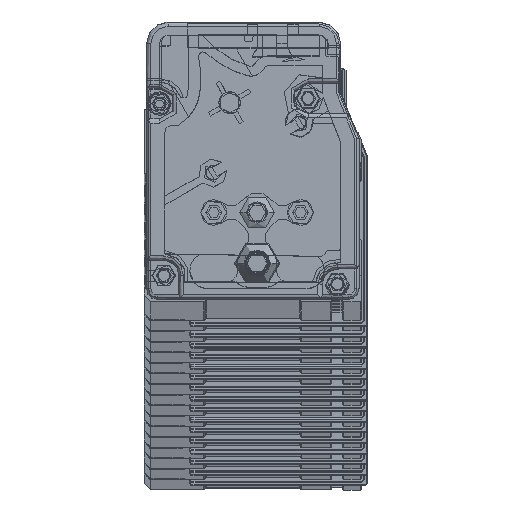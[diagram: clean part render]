
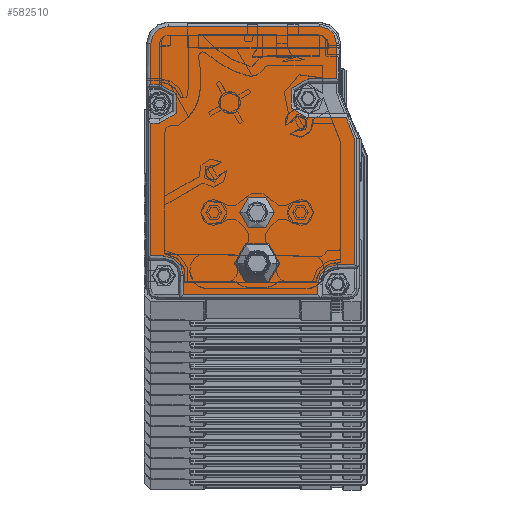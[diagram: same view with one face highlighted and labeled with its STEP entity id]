
A CAD part, top view. The second image highlights one B-rep face of the part: STEP entity #582510.
In plain terms, the highlighted planar face has unit normal (0, 0, 1).
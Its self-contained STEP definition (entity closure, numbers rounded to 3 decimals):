
#502120=CARTESIAN_POINT('',(-20.559,51.727,
2958.89));
#502130=DIRECTION('',(1.,0.,0.));
#502140=VECTOR('',#502130,1.);
#502150=LINE('',#502120,#502140);
#502160=CARTESIAN_POINT('',(-68.559,51.727,
2958.89));
#502170=VERTEX_POINT('',#502160);
#502180=CARTESIAN_POINT('',(-66.559,51.727,
2958.89));
#502190=VERTEX_POINT('',#502180);
#502200=EDGE_CURVE('',#502170,#502190,#502150,.T.);
#502700=CARTESIAN_POINT('',(-20.559,3.124,
2958.89));
#502710=DIRECTION('',(-1.,0.,0.));
#502720=VECTOR('',#502710,1.);
#502730=LINE('',#502700,#502720);
#502740=CARTESIAN_POINT('',(-30.059,3.124,
2958.89));
#502750=VERTEX_POINT('',#502740);
#502760=CARTESIAN_POINT('',(-61.059,3.124,
2958.89));
#502770=VERTEX_POINT('',#502760);
#502780=EDGE_CURVE('',#502750,#502770,#502730,.T.);
#504690=CARTESIAN_POINT('',(-65.559,7.624,
2958.89));
#504700=DIRECTION('',(0.,0.,-1.));
#504710=DIRECTION('',(-1.,0.,0.));
#504720=AXIS2_PLACEMENT_3D('',#504690,#504700,#504710);
#504730=CIRCLE('',#504720,4.5);
#504740=CARTESIAN_POINT('',(-65.559,12.124,
2958.89));
#504750=VERTEX_POINT('',#504740);
#504760=CARTESIAN_POINT('',(-61.059,7.624,
2958.89));
#504770=VERTEX_POINT('',#504760);
#504780=EDGE_CURVE('',#504750,#504770,#504730,.T.);
#544710=CARTESIAN_POINT('',(-32.309,48.424,
2958.89));
#544720=DIRECTION('',(0.,0.,-1.));
#544730=DIRECTION('',(-1.,0.,0.));
#544740=AXIS2_PLACEMENT_3D('',#544710,#544720,#544730);
#544750=CIRCLE('',#544740,4.5);
#544760=CARTESIAN_POINT('',(-32.309,43.924,
2958.89));
#544770=VERTEX_POINT('',#544760);
#544780=CARTESIAN_POINT('',(-32.309,52.924,
2958.89));
#544790=VERTEX_POINT('',#544780);
#544800=EDGE_CURVE('',#544770,#544790,#544750,.T.);
#580510=CARTESIAN_POINT('',(-7.243,2.124,
2958.89));
#580520=DIRECTION('',(0.362,-0.932,0.));
#580530=VECTOR('',#580520,1.);
#580540=LINE('',#580510,#580530);
#580550=CARTESIAN_POINT('',(-23.499,43.924,
2958.89));
#580560=VERTEX_POINT('',#580550);
#580570=CARTESIAN_POINT('',(-21.559,38.937,
2958.89));
#580580=VERTEX_POINT('',#580570);
#580590=EDGE_CURVE('',#580560,#580580,#580540,.T.);
#580870=CARTESIAN_POINT('',(-20.265,1.758,
2958.89));
#580880=DIRECTION('',(0.,0.,-1.));
#580890=DIRECTION('',(-1.,0.,0.));
#580900=AXIS2_PLACEMENT_3D('',#580870,#580880,#580890);
#580910=PLANE('',#580900);
#580920=CARTESIAN_POINT('',(-44.056,10.421,
2958.89));
#580930=DIRECTION('',(0.,0.,-1.));
#580940=DIRECTION('',(-1.,0.,0.));
#580950=AXIS2_PLACEMENT_3D('',#580920,#580930,#580940);
#580960=CIRCLE('',#580950,5.);
#580970=CARTESIAN_POINT('',(-39.056,10.421,
2958.89));
#580980=VERTEX_POINT('',#580970);
#580990=CARTESIAN_POINT('',(-49.056,10.421,
2958.89));
#581000=VERTEX_POINT('',#580990);
#581010=EDGE_CURVE('',#580980,#581000,#580960,.T.);
#581020=ORIENTED_EDGE('',*,*,#581010,.T.);
#581030=EDGE_CURVE('',#581000,#580980,#580960,.T.);
#581040=ORIENTED_EDGE('',*,*,#581030,.T.);
#581050=EDGE_LOOP('',(#581040,#581020));
#581060=FACE_BOUND('',#581050,.T.);
#581070=CARTESIAN_POINT('',(-44.059,22.124,
2958.89));
#581080=DIRECTION('',(0.,0.,1.));
#581090=DIRECTION('',(-1.,0.,0.));
#581100=AXIS2_PLACEMENT_3D('',#581070,#581080,#581090);
#581110=CIRCLE('',#581100,4.);
#581120=CARTESIAN_POINT('',(-40.059,22.124,
2958.89));
#581130=VERTEX_POINT('',#581120);
#581140=CARTESIAN_POINT('',(-48.059,22.124,
2958.89));
#581150=VERTEX_POINT('',#581140);
#581160=EDGE_CURVE('',#581130,#581150,#581110,.T.);
#581170=ORIENTED_EDGE('',*,*,#581160,.F.);
#581180=EDGE_CURVE('',#581150,#581130,#581110,.T.);
#581190=ORIENTED_EDGE('',*,*,#581180,.F.);
#581200=EDGE_LOOP('',(#581190,#581170));
#581210=FACE_BOUND('',#581200,.T.);
#581220=CARTESIAN_POINT('',(-61.059,2.124,
2958.89));
#581230=DIRECTION('',(0.,-1.,0.));
#581240=VECTOR('',#581230,1.);
#581250=LINE('',#581220,#581240);
#581260=EDGE_CURVE('',#504770,#502770,#581250,.T.);
#581270=ORIENTED_EDGE('',*,*,#581260,.T.);
#581280=ORIENTED_EDGE('',*,*,#504780,.T.);
#581290=CARTESIAN_POINT('',(-20.559,12.124,
2958.89));
#581300=DIRECTION('',(1.,0.,0.));
#581310=VECTOR('',#581300,1.);
#581320=LINE('',#581290,#581310);
#581330=CARTESIAN_POINT('',(-68.559,12.124,
2958.89));
#581340=VERTEX_POINT('',#581330);
#581350=EDGE_CURVE('',#581340,#504750,#581320,.T.);
#581360=ORIENTED_EDGE('',*,*,#581350,.T.);
#581370=CARTESIAN_POINT('',(-68.559,2.124,
2958.89));
#581380=DIRECTION('',(0.,-1.,0.));
#581390=VECTOR('',#581380,1.);
#581400=LINE('',#581370,#581390);
#581410=CARTESIAN_POINT('',(-68.559,42.727,
2958.89));
#581420=VERTEX_POINT('',#581410);
#581430=EDGE_CURVE('',#581420,#581340,#581400,.T.);
#581440=ORIENTED_EDGE('',*,*,#581430,.T.);
#581450=CARTESIAN_POINT('',(-20.559,42.727,
2958.89));
#581460=DIRECTION('',(-1.,0.,0.));
#581470=VECTOR('',#581460,1.);
#581480=LINE('',#581450,#581470);
#581490=CARTESIAN_POINT('',(-66.559,42.727,
2958.89));
#581500=VERTEX_POINT('',#581490);
#581510=EDGE_CURVE('',#581500,#581420,#581480,.T.);
#581520=ORIENTED_EDGE('',*,*,#581510,.T.);
#581530=CARTESIAN_POINT('',(-66.559,47.227,
2958.89));
#581540=DIRECTION('',(0.,0.,-1.));
#581550=DIRECTION('',(-1.,0.,0.));
#581560=AXIS2_PLACEMENT_3D('',#581530,#581540,#581550);
#581570=CIRCLE('',#581560,4.5);
#581580=EDGE_CURVE('',#502190,#581500,#581570,.T.);
#581590=ORIENTED_EDGE('',*,*,#581580,.T.);
#581600=ORIENTED_EDGE('',*,*,#502200,.T.);
#581610=CARTESIAN_POINT('',(-68.559,2.124,
2958.89));
#581620=DIRECTION('',(0.,-1.,0.));
#581630=VECTOR('',#581620,1.);
#581640=LINE('',#581610,#581630);
#581650=CARTESIAN_POINT('',(-68.559,61.024,
2958.89));
#581660=VERTEX_POINT('',#581650);
#581670=EDGE_CURVE('',#581660,#502170,#581640,.T.);
#581680=ORIENTED_EDGE('',*,*,#581670,.T.);
#581690=CARTESIAN_POINT('',(-64.559,61.024,
2958.89));
#581700=DIRECTION('',(0.,0.,1.));
#581710=DIRECTION('',(1.,0.,0.));
#581720=AXIS2_PLACEMENT_3D('',#581690,#581700,#581710);
#581730=CIRCLE('',#581720,4.);
#581740=CARTESIAN_POINT('',(-64.559,65.024,
2958.89));
#581750=VERTEX_POINT('',#581740);
#581760=EDGE_CURVE('',#581750,#581660,#581730,.T.);
#581770=ORIENTED_EDGE('',*,*,#581760,.T.);
#581780=CARTESIAN_POINT('',(-20.559,65.024,
2958.89));
#581790=DIRECTION('',(-1.,0.,0.));
#581800=VECTOR('',#581790,1.);
#581810=LINE('',#581780,#581800);
#581820=CARTESIAN_POINT('',(-29.759,65.024,
2958.89));
#581830=VERTEX_POINT('',#581820);
#581840=EDGE_CURVE('',#581830,#581750,#581810,.T.);
#581850=ORIENTED_EDGE('',*,*,#581840,.T.);
#581860=CARTESIAN_POINT('',(-29.759,61.024,
2958.89));
#581870=DIRECTION('',(0.,0.,1.));
#581880=DIRECTION('',(1.,0.,0.));
#581890=AXIS2_PLACEMENT_3D('',#581860,#581870,#581880);
#581900=CIRCLE('',#581890,4.);
#581910=CARTESIAN_POINT('',(-25.759,61.024,
2958.89));
#581920=VERTEX_POINT('',#581910);
#581930=EDGE_CURVE('',#581920,#581830,#581900,.T.);
#581940=ORIENTED_EDGE('',*,*,#581930,.T.);
#581950=CARTESIAN_POINT('',(-25.759,2.124,
2958.89));
#581960=DIRECTION('',(0.,1.,0.));
#581970=VECTOR('',#581960,1.);
#581980=LINE('',#581950,#581970);
#581990=CARTESIAN_POINT('',(-25.759,52.924,
2958.89));
#582000=VERTEX_POINT('',#581990);
#582010=EDGE_CURVE('',#582000,#581920,#581980,.T.);
#582020=ORIENTED_EDGE('',*,*,#582010,.T.);
#582030=CARTESIAN_POINT('',(-20.559,52.924,
2958.89));
#582040=DIRECTION('',(-1.,0.,0.));
#582050=VECTOR('',#582040,1.);
#582060=LINE('',#582030,#582050);
#582070=EDGE_CURVE('',#582000,#544790,#582060,.T.);
#582080=ORIENTED_EDGE('',*,*,#582070,.F.);
#582090=ORIENTED_EDGE('',*,*,#544800,.T.);
#582100=CARTESIAN_POINT('',(-20.559,43.924,
2958.89));
#582110=DIRECTION('',(-1.,0.,0.));
#582120=VECTOR('',#582110,1.);
#582130=LINE('',#582100,#582120);
#582140=EDGE_CURVE('',#580560,#544770,#582130,.T.);
#582150=ORIENTED_EDGE('',*,*,#582140,.T.);
#582160=ORIENTED_EDGE('',*,*,#580590,.F.);
#582170=CARTESIAN_POINT('',(-21.559,2.124,
2958.89));
#582180=DIRECTION('',(0.,-1.,0.));
#582190=VECTOR('',#582180,1.);
#582200=LINE('',#582170,#582190);
#582210=CARTESIAN_POINT('',(-21.559,10.124,
2958.89));
#582220=VERTEX_POINT('',#582210);
#582230=EDGE_CURVE('',#580580,#582220,#582200,.T.);
#582240=ORIENTED_EDGE('',*,*,#582230,.F.);
#582250=CARTESIAN_POINT('',(-20.559,10.124,
2958.89));
#582260=DIRECTION('',(1.,0.,0.));
#582270=VECTOR('',#582260,1.);
#582280=LINE('',#582250,#582270);
#582290=CARTESIAN_POINT('',(-25.559,10.124,
2958.89));
#582300=VERTEX_POINT('',#582290);
#582310=EDGE_CURVE('',#582300,#582220,#582280,.T.);
#582320=ORIENTED_EDGE('',*,*,#582310,.T.);
#582330=CARTESIAN_POINT('',(-25.559,5.624,
2958.89));
#582340=DIRECTION('',(0.,0.,-1.));
#582350=DIRECTION('',(-1.,0.,0.));
#582360=AXIS2_PLACEMENT_3D('',#582330,#582340,#582350);
#582370=CIRCLE('',#582360,4.5);
#582380=CARTESIAN_POINT('',(-30.059,5.624,
2958.89));
#582390=VERTEX_POINT('',#582380);
#582400=EDGE_CURVE('',#582390,#582300,#582370,.T.);
#582410=ORIENTED_EDGE('',*,*,#582400,.T.);
#582420=CARTESIAN_POINT('',(-30.059,2.124,
2958.89));
#582430=DIRECTION('',(0.,1.,0.));
#582440=VECTOR('',#582430,1.);
#582450=LINE('',#582420,#582440);
#582460=EDGE_CURVE('',#502750,#582390,#582450,.T.);
#582470=ORIENTED_EDGE('',*,*,#582460,.T.);
#582480=ORIENTED_EDGE('',*,*,#502780,.F.);
#582490=EDGE_LOOP('',(#582480,#582470,#582410,#582320,#582240,#582160,
#582150,#582090,#582080,#582020,#581940,#581850,#581770,#581680,#581600,
#581590,#581520,#581440,#581360,#581280,#581270));
#582500=FACE_OUTER_BOUND('',#582490,.T.);
#582510=ADVANCED_FACE('',(#581060,#581210,#582500),#580910,.F.);
